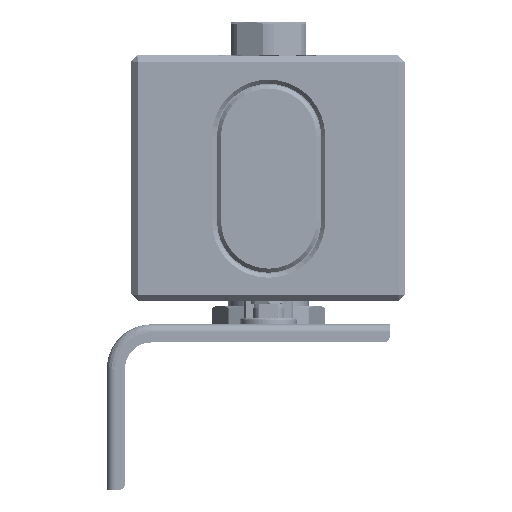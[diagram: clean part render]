
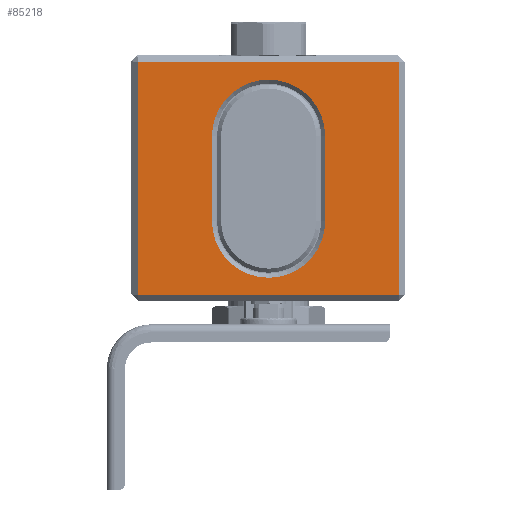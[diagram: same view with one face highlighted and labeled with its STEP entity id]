
A CAD part, left-side view. The second image highlights one B-rep face of the part: STEP entity #85218.
In plain terms, the highlighted planar face has unit normal (-1, 0, 0) as drawn and (0, -1, 0) by its records, which use the part's own axes.
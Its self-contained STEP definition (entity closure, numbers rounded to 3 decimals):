
#1373 = CARTESIAN_POINT ( 'NONE',  ( 78., -7.003, 21. ) ) ;
#8584 = FACE_BOUND ( 'NONE', #33837, .T. ) ;
#10966 = DIRECTION ( 'NONE',  ( 0., 1., 0. ) ) ;
#11309 = EDGE_CURVE ( 'NONE', #33584, #35548, #108471, .T. ) ;
#11853 = CIRCLE ( 'NONE', #20902, 28. ) ;
#14038 = ORIENTED_EDGE ( 'NONE', *, *, #67234, .T. ) ;
#15171 = VERTEX_POINT ( 'NONE', #53663 ) ;
#16099 = CARTESIAN_POINT ( 'NONE',  ( 78., -7.003, 0. ) ) ;
#16824 = ORIENTED_EDGE ( 'NONE', *, *, #90496, .T. ) ;
#20902 = AXIS2_PLACEMENT_3D ( 'NONE', #125649, #103544, #135602 ) ;
#21649 = CARTESIAN_POINT ( 'NONE',  ( 50., -7.003, -21. ) ) ;
#23566 = LINE ( 'NONE', #109752, #48601 ) ;
#25365 = AXIS2_PLACEMENT_3D ( 'NONE', #51078, #41098, #96599 ) ;
#33332 = CARTESIAN_POINT ( 'NONE',  ( -17.5, -7.003, 57.5 ) ) ;
#33584 = VERTEX_POINT ( 'NONE', #94812 ) ;
#33837 = EDGE_LOOP ( 'NONE', ( #127698, #104942, #16824, #14038, #132551 ) ) ;
#34043 = LINE ( 'NONE', #33332, #47153 ) ;
#34561 = EDGE_CURVE ( 'NONE', #99960, #15171, #43256, .T. ) ;
#35548 = VERTEX_POINT ( 'NONE', #77595 ) ;
#39156 = CARTESIAN_POINT ( 'NONE',  ( -14.5, -7.003, -57.5 ) ) ;
#40618 = VERTEX_POINT ( 'NONE', #93735 ) ;
#41098 = DIRECTION ( 'NONE',  ( 0., 1., 0. ) ) ;
#41231 = CARTESIAN_POINT ( 'NONE',  ( 114.5, -7.003, 0. ) ) ;
#43256 = LINE ( 'NONE', #16099, #54178 ) ;
#43718 = DIRECTION ( 'NONE',  ( 0., 0., -1. ) ) ;
#47153 = VECTOR ( 'NONE', #119499, 1000. ) ;
#48448 = EDGE_CURVE ( 'NONE', #139041, #40618, #52620, .T. ) ;
#48601 = VECTOR ( 'NONE', #79068, 1000. ) ;
#50451 = VECTOR ( 'NONE', #133305, 1000. ) ;
#51078 = CARTESIAN_POINT ( 'NONE',  ( 50., -7.003, -21. ) ) ;
#51825 = CARTESIAN_POINT ( 'NONE',  ( 50., -7.003, -49. ) ) ;
#52620 = LINE ( 'NONE', #41231, #120407 ) ;
#53663 = CARTESIAN_POINT ( 'NONE',  ( 78., -7.003, -21. ) ) ;
#53859 = EDGE_CURVE ( 'NONE', #69372, #139041, #56395, .T. ) ;
#54178 = VECTOR ( 'NONE', #80888, 1000. ) ;
#56395 = LINE ( 'NONE', #99834, #50451 ) ;
#58293 = VECTOR ( 'NONE', #139840, 1000. ) ;
#59044 = EDGE_CURVE ( 'NONE', #86179, #69372, #23566, .T. ) ;
#62056 = DIRECTION ( 'NONE',  ( 0., -1., 0. ) ) ;
#62760 = FACE_OUTER_BOUND ( 'NONE', #128278, .T. ) ;
#67234 = EDGE_CURVE ( 'NONE', #79610, #33584, #139261, .T. ) ;
#69372 = VERTEX_POINT ( 'NONE', #39156 ) ;
#74121 = PLANE ( 'NONE',  #140889 ) ;
#77595 = CARTESIAN_POINT ( 'NONE',  ( 22., -7.003, 21. ) ) ;
#79068 = DIRECTION ( 'NONE',  ( 0., 0., -1. ) ) ;
#79610 = VERTEX_POINT ( 'NONE', #51825 ) ;
#80888 = DIRECTION ( 'NONE',  ( 0., 0., -1. ) ) ;
#82686 = DIRECTION ( 'NONE',  ( 0., 0., -1. ) ) ;
#85218 = ADVANCED_FACE ( 'NONE', ( #8584, #62760 ), #74121, .T. ) ;
#86179 = VERTEX_POINT ( 'NONE', #111966 ) ;
#86771 = CIRCLE ( 'NONE', #25365, 28. ) ;
#90496 = EDGE_CURVE ( 'NONE', #15171, #79610, #86771, .T. ) ;
#90827 = EDGE_CURVE ( 'NONE', #35548, #99960, #11853, .T. ) ;
#91371 = ORIENTED_EDGE ( 'NONE', *, *, #48448, .T. ) ;
#93735 = CARTESIAN_POINT ( 'NONE',  ( 114.5, -7.003, 57.5 ) ) ;
#94812 = CARTESIAN_POINT ( 'NONE',  ( 22., -7.003, -21. ) ) ;
#95483 = CARTESIAN_POINT ( 'NONE',  ( -17.5, -7.003, 0. ) ) ;
#96397 = CARTESIAN_POINT ( 'NONE',  ( 22., -7.003, 0. ) ) ;
#96599 = DIRECTION ( 'NONE',  ( 0., 0., -1. ) ) ;
#99834 = CARTESIAN_POINT ( 'NONE',  ( -17.5, -7.003, -57.5 ) ) ;
#99960 = VERTEX_POINT ( 'NONE', #1373 ) ;
#103414 = DIRECTION ( 'NONE',  ( 0., 0., 1. ) ) ;
#103544 = DIRECTION ( 'NONE',  ( 0., 1., 0. ) ) ;
#104942 = ORIENTED_EDGE ( 'NONE', *, *, #34561, .T. ) ;
#108015 = ORIENTED_EDGE ( 'NONE', *, *, #118008, .T. ) ;
#108471 = LINE ( 'NONE', #96397, #58293 ) ;
#109752 = CARTESIAN_POINT ( 'NONE',  ( -14.5, -7.003, 0. ) ) ;
#111161 = CARTESIAN_POINT ( 'NONE',  ( 114.5, -7.003, -57.5 ) ) ;
#111966 = CARTESIAN_POINT ( 'NONE',  ( -14.5, -7.003, 57.5 ) ) ;
#118008 = EDGE_CURVE ( 'NONE', #40618, #86179, #34043, .T. ) ;
#119499 = DIRECTION ( 'NONE',  ( -1., 0., 0. ) ) ;
#120407 = VECTOR ( 'NONE', #103414, 1000. ) ;
#123383 = AXIS2_PLACEMENT_3D ( 'NONE', #21649, #10966, #43718 ) ;
#125649 = CARTESIAN_POINT ( 'NONE',  ( 50., -7.003, 21. ) ) ;
#127309 = ORIENTED_EDGE ( 'NONE', *, *, #53859, .T. ) ;
#127698 = ORIENTED_EDGE ( 'NONE', *, *, #90827, .T. ) ;
#128278 = EDGE_LOOP ( 'NONE', ( #108015, #128945, #127309, #91371 ) ) ;
#128945 = ORIENTED_EDGE ( 'NONE', *, *, #59044, .T. ) ;
#132551 = ORIENTED_EDGE ( 'NONE', *, *, #11309, .T. ) ;
#133305 = DIRECTION ( 'NONE',  ( 1., 0., 0. ) ) ;
#135602 = DIRECTION ( 'NONE',  ( 1., 0., 0. ) ) ;
#139041 = VERTEX_POINT ( 'NONE', #111161 ) ;
#139261 = CIRCLE ( 'NONE', #123383, 28. ) ;
#139840 = DIRECTION ( 'NONE',  ( 0., 0., 1. ) ) ;
#140889 = AXIS2_PLACEMENT_3D ( 'NONE', #95483, #62056, #82686 ) ;
